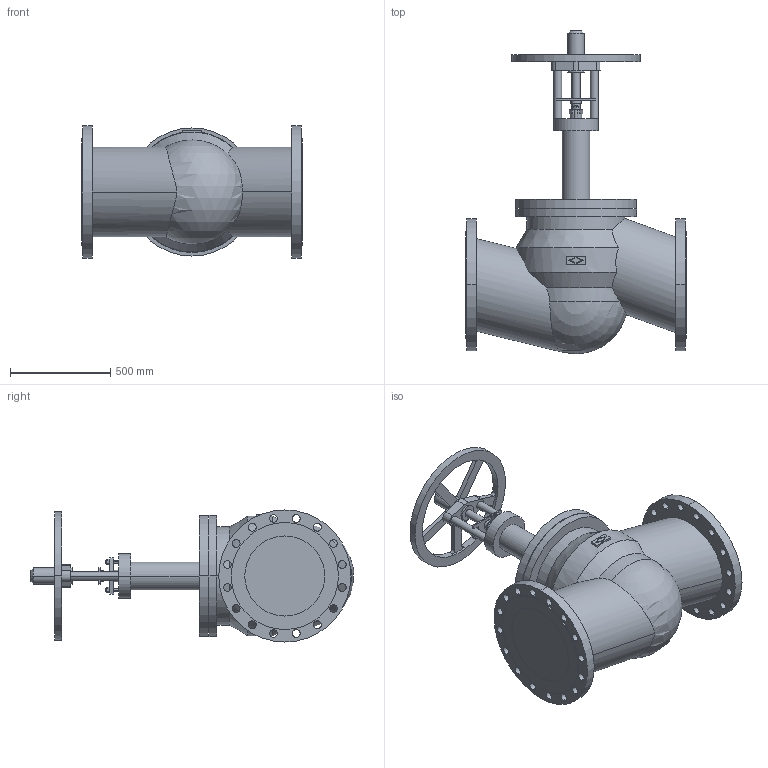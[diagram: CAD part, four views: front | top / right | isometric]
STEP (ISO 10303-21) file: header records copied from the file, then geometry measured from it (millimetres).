
FILE_DESCRIPTION(('Creo Elements/Direct Modeling STEP Export'),'2;1');
FILE_NAME('c000005013.stp','2012-09-19T12:00:52',(''),(''),'Creo Elements/Direct Modeling STEP processor for AP203 (Solid Model)','Creo Elements/Direct Modeling 17.0D 15-Jul-2011 (C) Parametric Technology GmbH','');
FILE_SCHEMA(('CONFIG_CONTROL_DESIGN'));
Length unit declared in the file: millimetre
Products named in the file (1): 1
Bounding box: 1100 x 1615.38 x 660 mm (x, y, z)
Volume: 296454050.3 mm3; surface area: 4778024.7 mm2
Topology: 1 solids, 1 shells, 274 faces, 735 edges, 487 vertices
Faces by surface type: cylinder 159, plane 109, cone 5, sphere 1
Entity records: 8658 total; most frequent: CARTESIAN_POINT 1775, ORIENTED_EDGE 1466, DIRECTION 1342, EDGE_CURVE 733, AXIS2_PLACEMENT_3D 487, VERTEX_POINT 487, EDGE_LOOP 382, VECTOR 368
